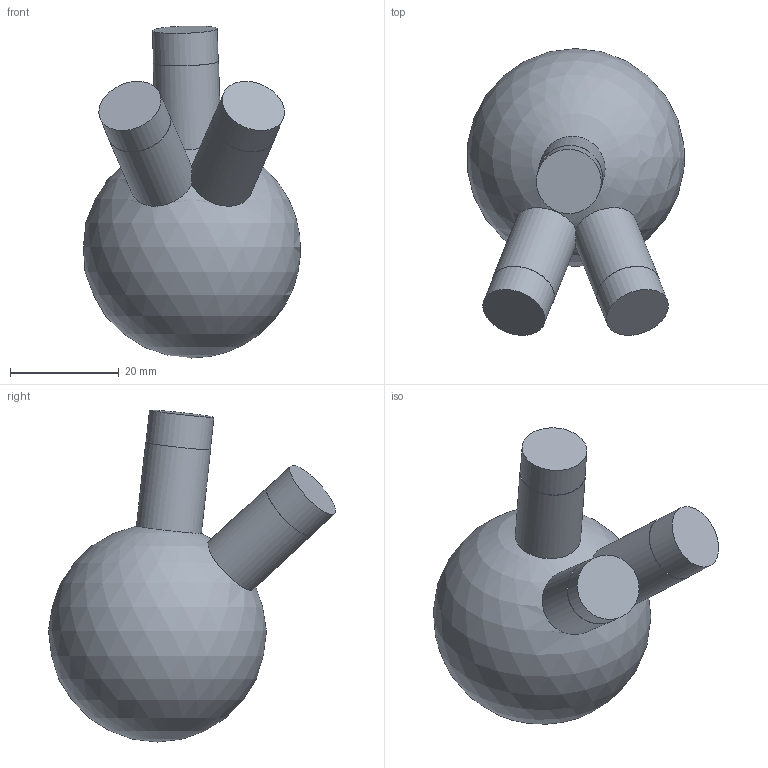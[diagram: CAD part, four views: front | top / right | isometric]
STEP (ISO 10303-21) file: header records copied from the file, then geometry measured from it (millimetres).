
FILE_DESCRIPTION(('Open CASCADE Model'),'2;1');
FILE_NAME('Open CASCADE Shape Model','2026-10-21T12:47:57',('Author'),( 'Open CASCADE'),'Open CASCADE STEP processor 7.9','Open CASCADE 7.9' ,'Unknown');
FILE_SCHEMA(('AUTOMOTIVE_DESIGN { 1 0 10303 214 1 1 1 1 }'));
Length unit declared in the file: millimetre
Products named in the file (1): Open CASCADE STEP translator 7.9 141
Bounding box: 39.83 x 52.68 x 60.93 mm (x, y, z)
Volume: 40553 mm3; surface area: 7418.4 mm2
Topology: 1 solids, 1 shells, 13 faces, 25 edges, 17 vertices
Faces by surface type: cylinder 6, plane 6, sphere 1
Full cylindrical faces by diameter (mm): 11.9 x3, 12 x3
Entity records: 1009 total; most frequent: CARTESIAN_POINT 470, DIRECTION 108, ORIENTED_EDGE 48, PCURVE 48, DEFINITIONAL_REPRESENTATION 48, LINE 35, VECTOR 35, AXIS2_PLACEMENT_3D 32
